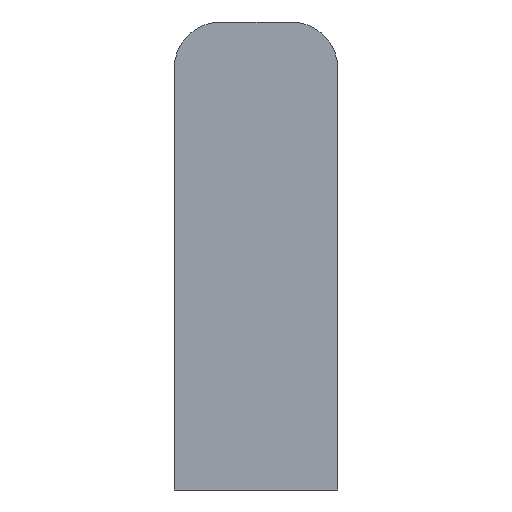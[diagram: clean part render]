
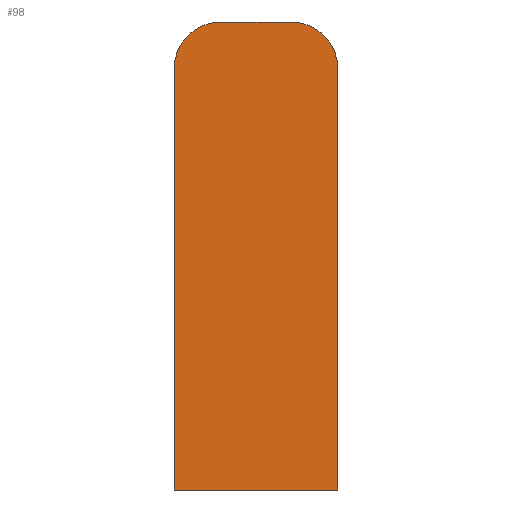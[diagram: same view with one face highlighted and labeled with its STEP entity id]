
A CAD part, front view. The second image highlights one B-rep face of the part: STEP entity #98.
In plain terms, the highlighted planar face has unit normal (0, -1, 0).
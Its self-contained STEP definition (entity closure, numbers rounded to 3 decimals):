
#1 = DIRECTION ( 'NONE',  ( 0., 1., 0. ) ) ;
#14 = VERTEX_POINT ( 'NONE', #32 ) ;
#18 = VERTEX_POINT ( 'NONE', #36 ) ;
#21 = VERTEX_POINT ( 'NONE', #39 ) ;
#23 = VERTEX_POINT ( 'NONE', #41 ) ;
#25 = VERTEX_POINT ( 'NONE', #43 ) ;
#26 = VERTEX_POINT ( 'NONE', #44 ) ;
#32 = CARTESIAN_POINT ( 'NONE',  ( -2.25, 0., 13.5 ) ) ;
#36 = CARTESIAN_POINT ( 'NONE',  ( -5.25, 0., 10.5 ) ) ;
#39 = CARTESIAN_POINT ( 'NONE',  ( -5.25, 0., -16.5 ) ) ;
#41 = CARTESIAN_POINT ( 'NONE',  ( 5.25, 0., -16.5 ) ) ;
#43 = CARTESIAN_POINT ( 'NONE',  ( 2.25, 0., 13.5 ) ) ;
#44 = CARTESIAN_POINT ( 'NONE',  ( 5.25, 0., 10.5 ) ) ;
#78 = PLANE ( 'NONE',  #417 ) ;
#82 = CARTESIAN_POINT ( 'NONE',  ( 0., 0., -1.5 ) ) ;
#98 = ADVANCED_FACE ( 'NONE', ( #187 ), #78, .F. ) ;
#106 = ORIENTED_EDGE ( 'NONE', *, *, #381, .T. ) ;
#110 = ORIENTED_EDGE ( 'NONE', *, *, #449, .T. ) ;
#147 = LINE ( 'NONE', #465, #186 ) ;
#158 = ORIENTED_EDGE ( 'NONE', *, *, #383, .T. ) ;
#159 = ORIENTED_EDGE ( 'NONE', *, *, #409, .T. ) ;
#164 = EDGE_LOOP ( 'NONE', ( #106, #110, #159, #158, #199, #201 ) ) ;
#186 = VECTOR ( 'NONE', #277, 1000. ) ;
#187 = FACE_OUTER_BOUND ( 'NONE', #164, .T. ) ;
#199 = ORIENTED_EDGE ( 'NONE', *, *, #414, .T. ) ;
#201 = ORIENTED_EDGE ( 'NONE', *, *, #443, .T. ) ;
#222 = LINE ( 'NONE', #351, #252 ) ;
#226 = CIRCLE ( 'NONE', #416, 3. ) ;
#241 = VECTOR ( 'NONE', #319, 1000. ) ;
#252 = VECTOR ( 'NONE', #352, 1000. ) ;
#263 = LINE ( 'NONE', #312, #241 ) ;
#265 = LINE ( 'NONE', #314, #266 ) ;
#266 = VECTOR ( 'NONE', #315, 1000. ) ;
#268 = CIRCLE ( 'NONE', #432, 3. ) ;
#277 = DIRECTION ( 'NONE',  ( 0., 0., 1. ) ) ;
#278 = DIRECTION ( 'NONE',  ( 0., -1., 0. ) ) ;
#279 = DIRECTION ( 'NONE',  ( -1., 0., 0. ) ) ;
#312 = CARTESIAN_POINT ( 'NONE',  ( -5.25, 0., -16.5 ) ) ;
#314 = CARTESIAN_POINT ( 'NONE',  ( 2.25, 0., 13.5 ) ) ;
#315 = DIRECTION ( 'NONE',  ( -1., 0., 0. ) ) ;
#319 = DIRECTION ( 'NONE',  ( 0., 0., -1. ) ) ;
#348 = CARTESIAN_POINT ( 'NONE',  ( 2.25, 0., 10.5 ) ) ;
#351 = CARTESIAN_POINT ( 'NONE',  ( 5.25, 0., -16.5 ) ) ;
#352 = DIRECTION ( 'NONE',  ( 1., 0., 0. ) ) ;
#357 = DIRECTION ( 'NONE',  ( 0., -1., 0. ) ) ;
#358 = DIRECTION ( 'NONE',  ( -1., 0., 0. ) ) ;
#381 = EDGE_CURVE ( 'NONE', #23, #26, #147, .T. ) ;
#383 = EDGE_CURVE ( 'NONE', #14, #18, #268, .T. ) ;
#409 = EDGE_CURVE ( 'NONE', #25, #14, #265, .T. ) ;
#414 = EDGE_CURVE ( 'NONE', #18, #21, #263, .T. ) ;
#416 = AXIS2_PLACEMENT_3D ( 'NONE', #348, #357, #358 ) ;
#417 = AXIS2_PLACEMENT_3D ( 'NONE', #82, #1, #463 ) ;
#432 = AXIS2_PLACEMENT_3D ( 'NONE', #453, #278, #279 ) ;
#443 = EDGE_CURVE ( 'NONE', #21, #23, #222, .T. ) ;
#449 = EDGE_CURVE ( 'NONE', #26, #25, #226, .T. ) ;
#453 = CARTESIAN_POINT ( 'NONE',  ( -2.25, 0., 10.5 ) ) ;
#463 = DIRECTION ( 'NONE',  ( -1., 0., 0. ) ) ;
#465 = CARTESIAN_POINT ( 'NONE',  ( 5.25, 0., -16.5 ) ) ;
